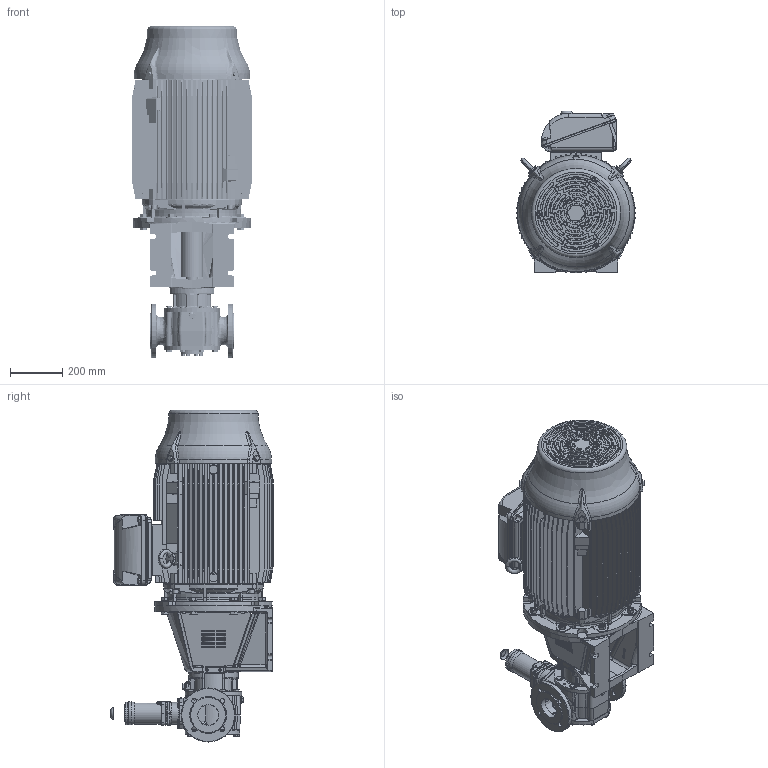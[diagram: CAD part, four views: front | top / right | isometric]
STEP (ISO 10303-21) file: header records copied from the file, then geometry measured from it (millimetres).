
FILE_DESCRIPTION(/* description */ (''),/* implementation_level */ '2;1');
FILE_NAME(/* name */ 'C:\V\JPP\Designs\GEAR PUMPS\PRODUCT ENGINEERING\EUROPE\TG BLOC\TG BLOC_58-80_R3_O_RV1-_225-STEP.stp',/* time_stamp */ '2021-03-19T11:52:09+01:00',/* author */ ('A77THR'),/* organization */ (''),/* preprocessor_version */ 'ST-DEVELOPER v18.1',/* originating_system */ 'Autodesk Inventor 2020',/* authorisation */ '');
FILE_SCHEMA (('AUTOMOTIVE_DESIGN { 1 0 10303 214 3 1 1 }'));
Length unit declared in the file: millimetre
Products named in the file (1): TG BLOC_58-80_R3_O_RV1-_225
Bounding box: 455 x 618.5 x 1265.96 mm (x, y, z)
Volume: 119374499.4 mm3; surface area: 4675269.1 mm2
Topology: 1 solids, 1 shells, 5003 faces, 13149 edges, 8375 vertices
Faces by surface type: plane 2212, cone 1041, bspline 809, cylinder 755, torus 136, sphere 50
Full cylindrical faces by diameter (mm): 4.5 x4, 4.917 x3, 5.459 x4, 6 x4, 6.647 x1, 6.8 x2, 7 x4, 7.323 x18, 8 x14, 8.7 x4, 9 x18, 10 x8, 10.106 x7, 10.2 x2, 11.053 x4, 11.4 x18, 11.445 x2, 12 x4, 13 x1, 13.157 x2, 13.2 x2, 13.835 x8, 14 x8, 14.8 x4, 15.011 x2, 17.2 x20, 17.5 x1, 18 x10, 18.1 x8, 19 x2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
Entity records: 209927 total; most frequent: CARTESIAN_POINT 88080, ORIENTED_EDGE 26136, DIRECTION 22672, EDGE_CURVE 13068, AXIS2_PLACEMENT_3D 8642, VERTEX_POINT 8367, EDGE_LOOP 5459, LINE 5388
